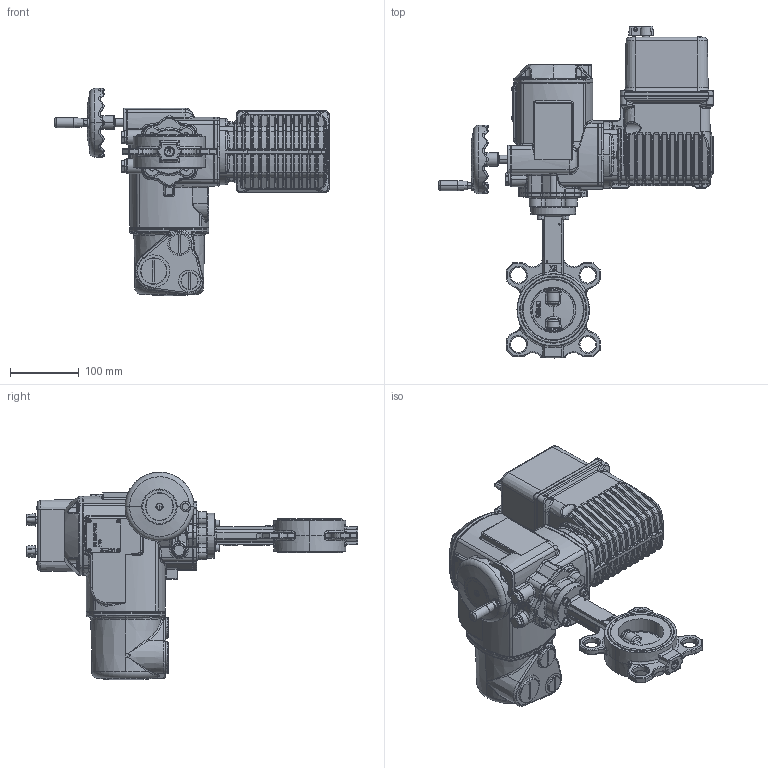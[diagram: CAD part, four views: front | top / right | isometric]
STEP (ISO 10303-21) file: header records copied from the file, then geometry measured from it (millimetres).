
FILE_DESCRIPTION (( 'STEP AP203' ), '1' );
FILE_NAME ('VPI-U24 DN65.step', '2016-09-29T16:15:37', ( 'TECOFI' ), ( '' ), 'SwSTEP 2.0', 'SolidWorks 2014', '' );
FILE_SCHEMA (( 'CONFIG_CONTROL_DESIGN' ));
Products named in the file (1): VPI-U24 DN65
Bounding box: 398.75 x 482.65 x 301.65 mm (x, y, z)
Volume: 7328360.8 mm3; surface area: 594974.2 mm2
Topology: 47 solids, 48 shells, 4578 faces, 11075 edges, 6545 vertices
Faces by surface type: bspline 1561, cylinder 1028, plane 1019, cone 472, torus 457, sphere 41
Entity records: 209972 total; most frequent: CARTESIAN_POINT 115843, ORIENTED_EDGE 21788, DIRECTION 16594, EDGE_CURVE 10894, VERTEX_POINT 6545, AXIS2_PLACEMENT_3D 6492, EDGE_LOOP 4759, ADVANCED_FACE 4578
